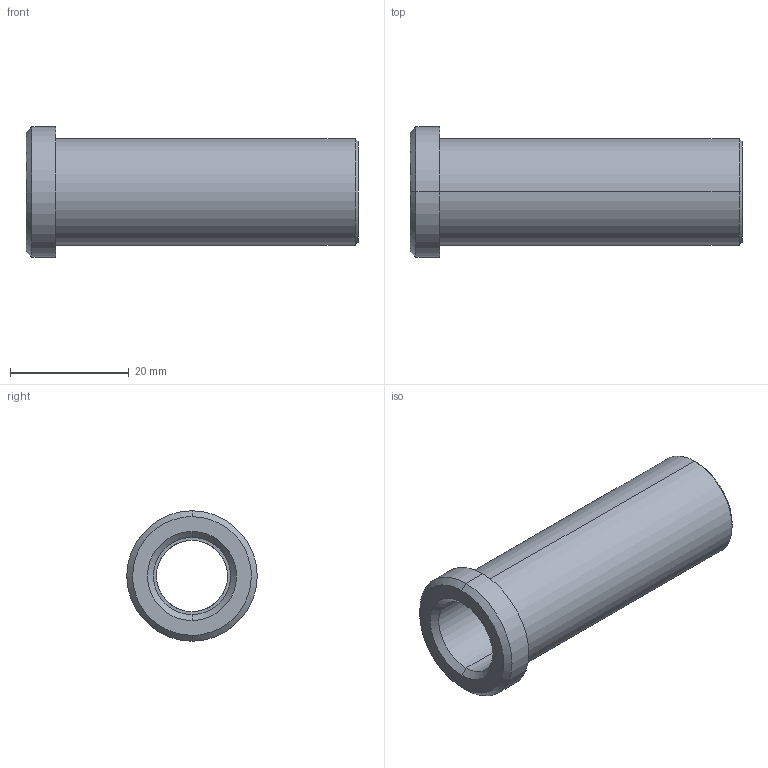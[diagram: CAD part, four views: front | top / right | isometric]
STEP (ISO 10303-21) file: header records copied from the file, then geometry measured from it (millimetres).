
FILE_DESCRIPTION(('CATIA V5 STEP Exchange'),'2;1');
FILE_NAME('C:\Users\Utente\Desktop\IO LAVORO\3D X SITO CF\X SITO\PLASTICA\353\353-12X56.stp','2021-04-21T12:19:57+00:00',('none'),('none'),'CATIA Version 5 Release 20 GA (IN-10)','CATIA V5 STEP AP203','none');
FILE_SCHEMA(('CONFIG_CONTROL_DESIGN'));
Length unit declared in the file: millimetre
Products named in the file (1): 353-12X56
Bounding box: 56 x 22 x 22 mm (x, y, z)
Volume: 7846.5 mm3; surface area: 5878.3 mm2
Topology: 1 solids, 1 shells, 20 faces, 64 edges, 48 vertices
Faces by surface type: cylinder 8, cone 6, plane 4, torus 2
Entity records: 900 total; most frequent: CARTESIAN_POINT 295, ORIENTED_EDGE 128, DIRECTION 92, EDGE_CURVE 64, AXIS2_PLACEMENT_3D 59, VERTEX_POINT 48, CIRCLE 38, EDGE_LOOP 24
